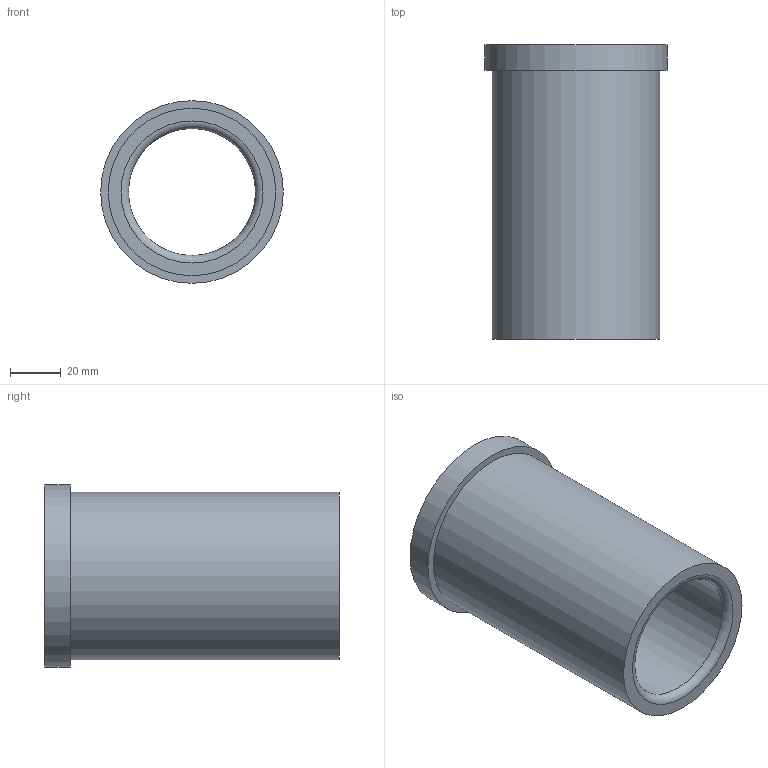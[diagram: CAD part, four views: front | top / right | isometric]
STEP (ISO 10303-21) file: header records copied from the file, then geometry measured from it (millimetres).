
FILE_DESCRIPTION(/* description */ ('STEP AP214'),/* implementation_level */ '2;1');
FILE_NAME(/* name */ '03_12_17961',/* time_stamp */ '2023-06-15T11:35:47+02:00',/* author */ ('License CC BY-ND 4.0'),/* organization */ ('CADENAS'),/* preprocessor_version */ 'ST-DEVELOPER v19.3',/* originating_system */ 'PARTsolutions',/* authorisation */ ' ');
FILE_SCHEMA (('AUTOMOTIVE_DESIGN {1 0 10303 214 3 1 1}'));
Length unit declared in the file: millimetre
Products named in the file (1): VA_Bushing_17961
Bounding box: 72 x 116 x 72 mm (x, y, z)
Volume: 173869.7 mm3; surface area: 46322.6 mm2
Topology: 1 solids, 1 shells, 10 faces, 16 edges, 10 vertices
Faces by surface type: cylinder 4, plane 4, torus 2
Full cylindrical faces by diameter (mm): 50 x1, 50.6 x1, 66 x1, 72 x1
Entity records: 302 total; most frequent: DIRECTION 42, CARTESIAN_POINT 31, AXIS2_PLACEMENT_3D 21, ORIENTED_EDGE 20, EDGE_LOOP 20, FACE_BOUND 20, EDGE_CURVE 10, VERTEX_POINT 10
